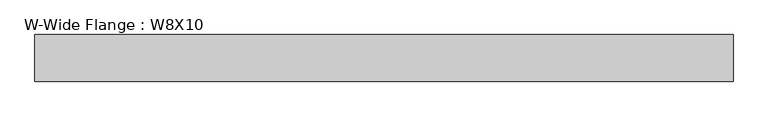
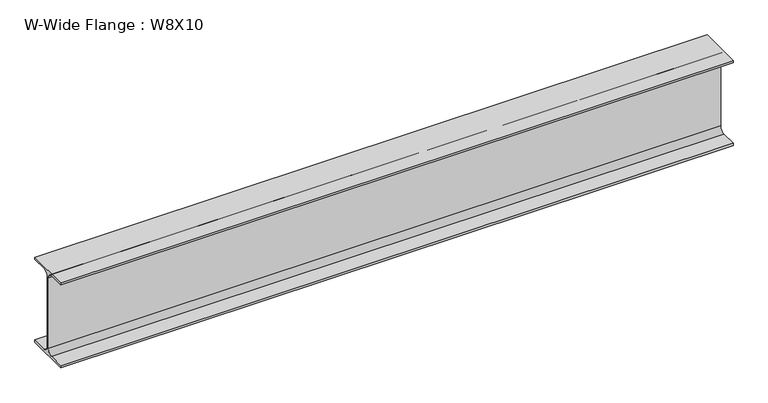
"""IFC4 building model written with IfcOpenShell, lengths in millimetres: beam geometry, W-Wide Flange : W8X10."""

from ifc_helpers import new_model, si_unit, point, frame, frame_2d, origin, place, context, project, spatial, polyline, circle_curve, trimmed, segment, composite_curve, outline, extrude, source, transform, mapped, element, save


def w_wide_flange_w8x10_993dd0ac(model_context):
    return source(origin(), model_context, "Body", "SweptSolid", [
        extrude(outline(composite_curve([segment(polyline([(50.038, -94.996), (50.038, -100.203), (-50.038, -100.203), (-50.038, -94.996), (-14.4145, -94.996)]), True, "CONTINUOUS"), segment(trimmed(circle_curve(frame_2d((-14.4145, -82.7405)), 12.2555), [point((-14.4145, -94.996))], [point((-2.159, -82.7405))], True, "CARTESIAN"), True, "CONTINUOUS"), segment(polyline([(-2.159, -82.7405), (-2.159, 82.7405)]), True, "CONTINUOUS"), segment(trimmed(circle_curve(frame_2d((-14.4145, 82.7405)), 12.2555), [point((-2.159, 82.7405))], [point((-14.4145, 94.996))], True, "CARTESIAN"), True, "CONTINUOUS"), segment(polyline([(-14.4145, 94.996), (-50.038, 94.996), (-50.038, 100.203), (50.038, 100.203), (50.038, 94.996), (14.4145, 94.996)]), True, "CONTINUOUS"), segment(trimmed(circle_curve(frame_2d((14.4145, 82.7405)), 12.2555), [point((14.4145, 94.996))], [point((2.159, 82.7405))], True, "CARTESIAN"), True, "CONTINUOUS"), segment(polyline([(2.159, 82.7405), (2.159, -82.7405)]), True, "CONTINUOUS"), segment(trimmed(circle_curve(frame_2d((14.4145, -82.7405)), 12.2555), [point((2.159, -82.7405))], [point((14.4145, -94.996))], True, "CARTESIAN"), True, "CONTINUOUS"), segment(polyline([(14.4145, -94.996), (50.038, -94.996)]), True, "CONTINUOUS")], self_intersect=False)), frame((-758.825, 0.0, 0.0), z_axis=(1.0, 0.0, 0.0), x_axis=(0.0, 1.0, 0.0)), (0.0, 0.0, 1.0), 1498.8480469),
    ])


if __name__ == "__main__":
    model = new_model("IFC4")
    model_context = context("Model", 3, world=origin())
    ifc_project = project(units=[si_unit("LENGTHUNIT", "METRE", prefix="MILLI")], contexts=[model_context])
    site = spatial("IfcSite", under=ifc_project)
    building = spatial("IfcBuilding", under=site)
    placement = place(None, origin())
    w_wide_flange_w8x10_shape = w_wide_flange_w8x10_993dd0ac(model_context)
    element("IfcBeam", 1, ObjectType="W-Wide Flange : W8X10", at=placement, inside=building, context=model_context, shape_type="MappedRepresentation", body=[
        mapped(w_wide_flange_w8x10_shape, transform((0.0, 0.0, 0.0), x_axis=(1.0, 0.0, 0.0), y_axis=(0.0, 1.0, 0.0), z_axis=(0.0, 0.0, 1.0))),
    ])
    save(model, "model.ifc")
